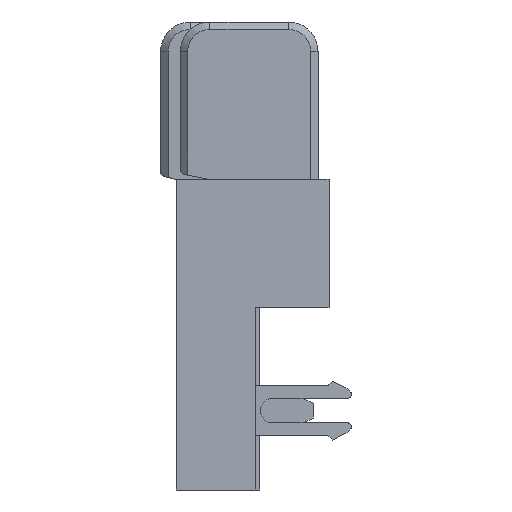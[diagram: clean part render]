
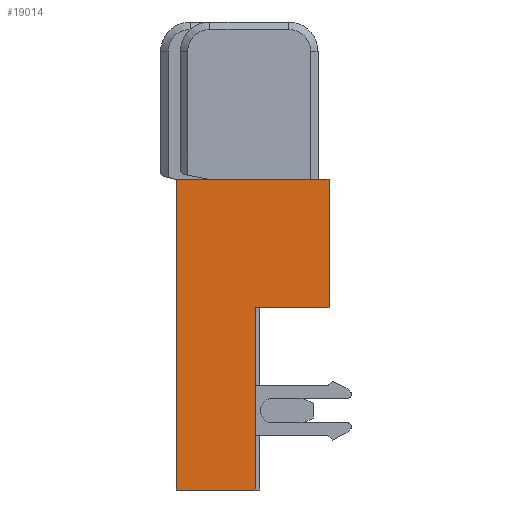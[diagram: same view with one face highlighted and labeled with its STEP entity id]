
A CAD part, left-side view. The second image highlights one B-rep face of the part: STEP entity #19014.
In plain terms, the highlighted planar face has unit normal (-1, 0, 0).
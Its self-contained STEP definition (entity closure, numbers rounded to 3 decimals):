
#6942=DIRECTION('',(0.,0.,1.));
#6943=VECTOR('',#6942,2.605);
#6944=CARTESIAN_POINT('',(-8.166,-3.106,0.));
#6945=LINE('',#6944,#6943);
#6950=DIRECTION('',(0.,-1.,0.));
#6951=VECTOR('',#6950,3.106);
#6952=CARTESIAN_POINT('',(-8.166,0.,2.605));
#6953=LINE('',#6952,#6951);
#6954=DIRECTION('',(0.,1.,0.));
#6955=VECTOR('',#6954,1.503);
#6956=CARTESIAN_POINT('',(-8.166,-3.106,0.));
#6957=LINE('',#6956,#6955);
#6958=DIRECTION('',(0.,0.,-1.));
#6959=VECTOR('',#6958,3.707);
#6960=CARTESIAN_POINT('',(-8.166,-1.603,0.));
#6961=LINE('',#6960,#6959);
#6962=DIRECTION('',(0.,1.,0.));
#6963=VECTOR('',#6962,1.603);
#6964=CARTESIAN_POINT('',(-8.166,-1.603,-3.707));
#6965=LINE('',#6964,#6963);
#6966=DIRECTION('',(0.,0.,1.));
#6967=VECTOR('',#6966,6.313);
#6968=CARTESIAN_POINT('',(-8.166,0.,-3.707));
#6969=LINE('',#6968,#6967);
#7510=CARTESIAN_POINT('',(-8.166,0.,2.605));
#7512=VERTEX_POINT('',#7510);
#7515=CARTESIAN_POINT('',(-8.166,0.,-3.707));
#7517=VERTEX_POINT('',#7515);
#7654=CARTESIAN_POINT('',(-8.166,-3.106,2.605));
#7655=VERTEX_POINT('',#7654);
#7963=CARTESIAN_POINT('',(-8.166,-3.106,0.));
#7965=VERTEX_POINT('',#7963);
#7980=CARTESIAN_POINT('',(-8.166,-1.603,-3.707));
#7981=VERTEX_POINT('',#7980);
#7982=CARTESIAN_POINT('',(-8.166,-1.603,0.));
#7983=VERTEX_POINT('',#7982);
#19000=CARTESIAN_POINT('',(-8.166,-1.553,-0.551));
#19001=DIRECTION('',(1.,0.,0.));
#19002=DIRECTION('',(0.,0.,-1.));
#19003=AXIS2_PLACEMENT_3D('',#19000,#19001,#19002);
#19004=PLANE('',#19003);
#19005=ORIENTED_EDGE('',*,*,#10917,.T.);
#19006=ORIENTED_EDGE('',*,*,#18984,.F.);
#19007=ORIENTED_EDGE('',*,*,#11705,.T.);
#19008=ORIENTED_EDGE('',*,*,#10099,.T.);
#19010=ORIENTED_EDGE('',*,*,#19009,.T.);
#19011=ORIENTED_EDGE('',*,*,#10677,.T.);
#19012=EDGE_LOOP('',(#19005,#19006,#19007,#19008,#19010,#19011));
#19013=FACE_OUTER_BOUND('',#19012,.F.);
#19014=ADVANCED_FACE('',(#19013),#19004,.F.);
#10099=EDGE_CURVE('',#7983,#7981,#6961,.T.);
#10677=EDGE_CURVE('',#7517,#7512,#6969,.T.);
#10917=EDGE_CURVE('',#7512,#7655,#6953,.T.);
#11705=EDGE_CURVE('',#7965,#7983,#6957,.T.);
#18984=EDGE_CURVE('',#7965,#7655,#6945,.T.);
#19009=EDGE_CURVE('',#7981,#7517,#6965,.T.);
